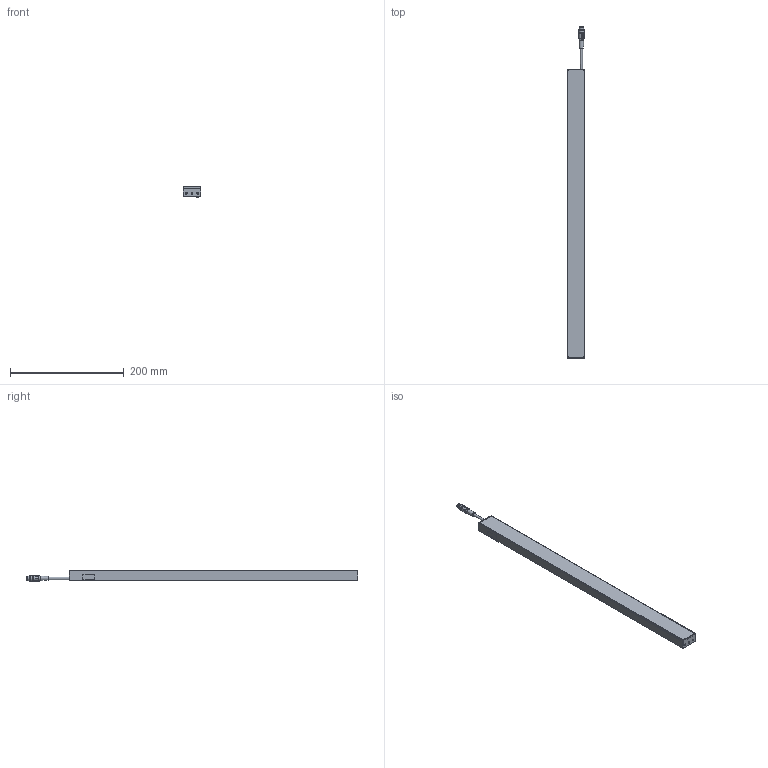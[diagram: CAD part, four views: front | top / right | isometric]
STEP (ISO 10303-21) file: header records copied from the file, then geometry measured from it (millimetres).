
FILE_DESCRIPTION(/* description */ (''),/* implementation_level */ '2;1');
FILE_NAME(/* name */ '10X.0104.YY_BB500',/* time_stamp */ '2024-08-21T09:05:12+02:00',/* author */ (''),/* organization */ ('iiM AG'),/* preprocessor_version */ 'ST-DEVELOPER v16.7',/* originating_system */ 'DEX',/* authorisation */ $);
FILE_SCHEMA (('CONFIG_CONTROL_DESIGN'));
Length unit declared in the file: millimetre
Products named in the file (1): bb500
Bounding box: 31 x 583.09 x 18.32 mm (x, y, z)
Volume: 152365.3 mm3; surface area: 100467.8 mm2
Topology: 2 solids, 2 shells, 218 faces, 567 edges, 368 vertices
Faces by surface type: cylinder 99, plane 98, cone 16, bspline 4, torus 1
Full cylindrical faces by diameter (mm): 1 x4, 2 x1, 3.242 x18, 4.1 x2, 4.2 x2, 5.7 x1, 6.35 x1, 8 x2, 9 x1, 9.3 x2, 10 x1
Entity records: 8509 total; most frequent: CARTESIAN_POINT 1923, DIRECTION 1078, ORIENTED_EDGE 988, EDGE_CURVE 494, AXIS2_PLACEMENT_3D 419, VERTEX_POINT 347, FACE_BOUND 299, EDGE_LOOP 293
